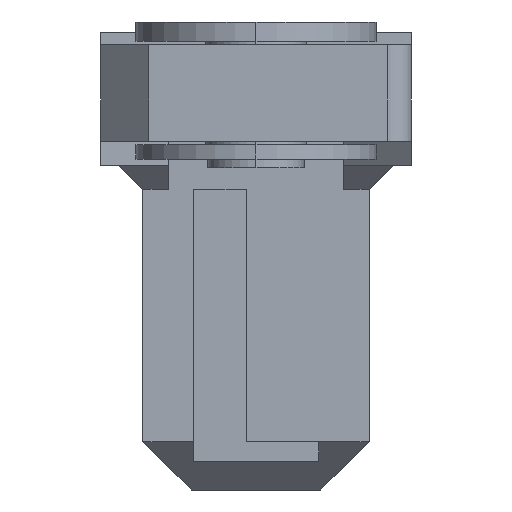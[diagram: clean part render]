
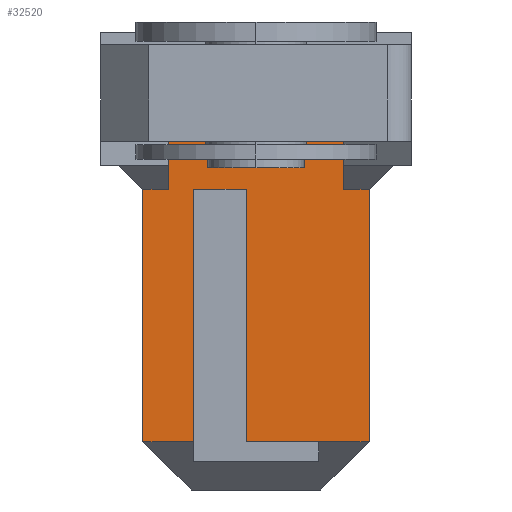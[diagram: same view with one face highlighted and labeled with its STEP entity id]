
A CAD part, left-side view. The second image highlights one B-rep face of the part: STEP entity #32520.
In plain terms, the highlighted planar face has unit normal (-1, 0, 0).
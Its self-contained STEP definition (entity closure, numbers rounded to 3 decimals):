
#6090=CARTESIAN_POINT('',(-16.778,-1.286,-17.));
#6100=VERTEX_POINT('',#6090);
#6250=CARTESIAN_POINT('',(-16.778,1.714,-17.));
#6260=VERTEX_POINT('',#6250);
#6290=CARTESIAN_POINT('',(-16.778,0.,-17.))
;
#6300=DIRECTION('',(0.,-1.,0.));
#6310=VECTOR('',#6300,1.);
#6320=LINE('',#6290,#6310);
#6330=EDGE_CURVE('',#6260,#6100,#6320,.T.);
#10770=CARTESIAN_POINT('',(-16.778,-2.336,-4.5));
#10780=VERTEX_POINT('',#10770);
#10910=CARTESIAN_POINT('',(-16.778,-2.336,
-6.5));
#10920=VERTEX_POINT('',#10910);
#10950=CARTESIAN_POINT('',(-16.778,-2.336,0.));
#10960=DIRECTION('',(0.,0.,-1.));
#10970=VECTOR('',#10960,1.);
#10980=LINE('',#10950,#10970);
#10990=EDGE_CURVE('',#10780,#10920,#10980,.T.);
#12350=CARTESIAN_POINT('',(-16.778,3.914,
-6.5));
#12360=VERTEX_POINT('',#12350);
#12530=CARTESIAN_POINT('',(-16.778,3.914,-17.));
#12540=VERTEX_POINT('',#12530);
#12570=CARTESIAN_POINT('',(-16.778,3.914,0.));
#12580=DIRECTION('',(0.,0.,1.));
#12590=VECTOR('',#12580,1.);
#12600=LINE('',#12570,#12590);
#12610=EDGE_CURVE('',#12540,#12360,#12600,.T.);
#14130=CARTESIAN_POINT('',(-16.778,0.,-6.5));
#14140=DIRECTION('',(0.,1.,0.));
#14150=VECTOR('',#14140,1.);
#14160=LINE('',#14130,#14150);
#14170=CARTESIAN_POINT('',(-16.778,1.714,-6.5));
#14180=VERTEX_POINT('',#14170);
#14190=EDGE_CURVE('',#14180,#12360,#14160,.T.);
#17600=CARTESIAN_POINT('',(-16.778,-3.386,-19.));
#17610=DIRECTION('',(0.,0.,1.));
#17620=VECTOR('',#17610,1.);
#17630=LINE('',#17600,#17620);
#17640=CARTESIAN_POINT('',(-16.778,-3.386,-17.));
#17650=VERTEX_POINT('',#17640);
#17660=CARTESIAN_POINT('',(-16.778,-3.386,-6.5));
#17670=VERTEX_POINT('',#17660);
#17680=EDGE_CURVE('',#17650,#17670,#17630,.T.);
#17970=CARTESIAN_POINT('',(-16.778,4.964,
-6.5));
#17980=VERTEX_POINT('',#17970);
#18130=CARTESIAN_POINT('',(-16.778,4.964,-4.5));
#18140=VERTEX_POINT('',#18130);
#18170=CARTESIAN_POINT('',(-16.778,4.964,0.));
#18180=DIRECTION('',(0.,0.,1.));
#18190=VECTOR('',#18180,1.);
#18200=LINE('',#18170,#18190);
#18210=EDGE_CURVE('',#17980,#18140,#18200,.T.);
#18510=CARTESIAN_POINT('',(-16.778,6.014,-17.));
#18520=VERTEX_POINT('',#18510);
#18550=CARTESIAN_POINT('',(-16.778,0.,-17.));
#18560=DIRECTION('',(0.,-1.,0.));
#18570=VECTOR('',#18560,1.);
#18580=LINE('',#18550,#18570);
#18590=EDGE_CURVE('',#18520,#12540,#18580,.T.);
#18690=CARTESIAN_POINT('',(-16.778,-2.386,-17.));
#18700=DIRECTION('',(0.,-1.,0.));
#18710=VECTOR('',#18700,1.);
#18720=LINE('',#18690,#18710);
#18730=EDGE_CURVE('',#6100,#17650,#18720,.T.);
#18880=CARTESIAN_POINT('',(-16.778,6.014,
-6.5));
#18890=VERTEX_POINT('',#18880);
#18920=CARTESIAN_POINT('',(-16.778,6.014,-19.));
#18930=DIRECTION('',(0.,0.,1.));
#18940=VECTOR('',#18930,1.);
#18950=LINE('',#18920,#18940);
#18960=EDGE_CURVE('',#18520,#18890,#18950,.T.);
#23130=CARTESIAN_POINT('',(-16.778,5.989,
-6.5));
#23140=DIRECTION('',(0.,1.,0.));
#23150=VECTOR('',#23140,1.);
#23160=LINE('',#23130,#23150);
#23170=EDGE_CURVE('',#17980,#18890,#23160,.T.);
#24340=CARTESIAN_POINT('',(-16.778,0.,-6.5));
#24350=DIRECTION('',(0.,-1.,0.));
#24360=VECTOR('',#24350,1.);
#24370=LINE('',#24340,#24360);
#24380=EDGE_CURVE('',#10920,#17670,#24370,.T.);
#24740=CARTESIAN_POINT('',(-16.778,0.,-4.5)
);
#24750=DIRECTION('',(0.,-1.,0.));
#24760=VECTOR('',#24750,1.);
#24770=LINE('',#24740,#24760);
#24780=EDGE_CURVE('',#18140,#10780,#24770,.T.);
#31380=CARTESIAN_POINT('',(-16.778,1.714,0.));
#31390=DIRECTION('',(0.,0.,1.));
#31400=VECTOR('',#31390,1.);
#31410=LINE('',#31380,#31400);
#31420=EDGE_CURVE('',#6260,#14180,#31410,.T.);
#32320=CARTESIAN_POINT('',(-16.778,4.964,-11.75));
#32330=DIRECTION('',(-1.,0.,0.));
#32340=DIRECTION('',(0.,1.,0.));
#32350=AXIS2_PLACEMENT_3D('',#32320,#32330,#32340);
#32360=PLANE('',#32350);
#32370=ORIENTED_EDGE('',*,*,#18960,.F.);
#32380=ORIENTED_EDGE('',*,*,#23170,.T.);
#32390=ORIENTED_EDGE('',*,*,#18210,.F.);
#32400=ORIENTED_EDGE('',*,*,#24780,.F.);
#32410=ORIENTED_EDGE('',*,*,#10990,.F.);
#32420=ORIENTED_EDGE('',*,*,#24380,.F.);
#32430=ORIENTED_EDGE('',*,*,#17680,.T.);
#32440=ORIENTED_EDGE('',*,*,#18730,.T.);
#32450=ORIENTED_EDGE('',*,*,#6330,.T.);
#32460=ORIENTED_EDGE('',*,*,#31420,.F.);
#32470=ORIENTED_EDGE('',*,*,#14190,.F.);
#32480=ORIENTED_EDGE('',*,*,#12610,.T.);
#32490=ORIENTED_EDGE('',*,*,#18590,.T.);
#32500=EDGE_LOOP('',(#32490,#32480,#32470,#32460,#32450,#32440,#32430,
#32420,#32410,#32400,#32390,#32380,#32370));
#32510=FACE_OUTER_BOUND('',#32500,.T.);
#32520=ADVANCED_FACE('',(#32510),#32360,.T.);
